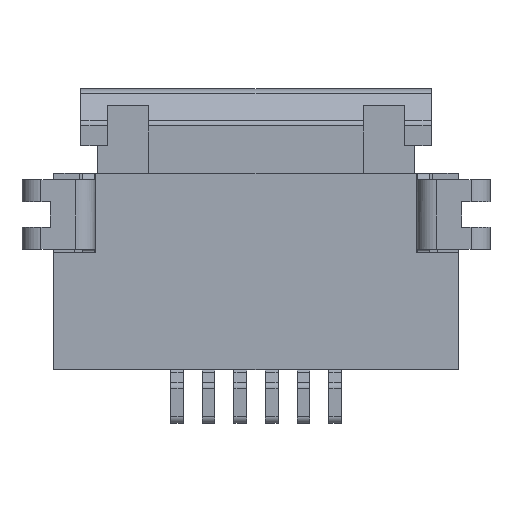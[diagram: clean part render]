
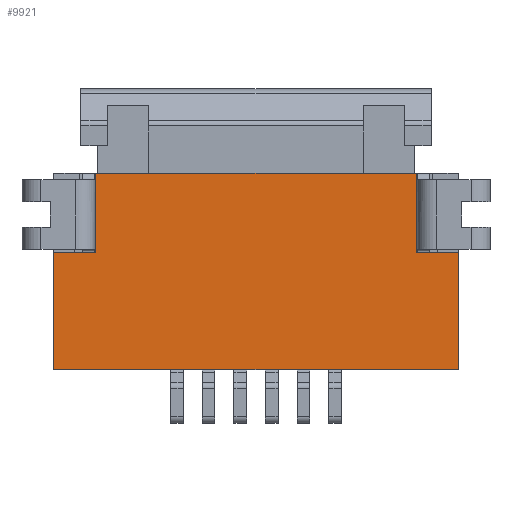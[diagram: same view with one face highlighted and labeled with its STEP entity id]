
A CAD part, top view. The second image highlights one B-rep face of the part: STEP entity #9921.
In plain terms, the highlighted planar face has unit normal (0, 0, 1).
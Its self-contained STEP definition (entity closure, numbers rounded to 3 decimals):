
#5=DIRECTION('',(0.,-1.,0.));
#6=VECTOR('',#5,1.85);
#7=CARTESIAN_POINT('',(-3.2,-1.25,1.55));
#8=LINE('',#7,#6);
#37=DIRECTION('',(-1.,0.,0.));
#38=VECTOR('',#37,0.67);
#39=CARTESIAN_POINT('',(-2.53,-1.25,1.55));
#40=LINE('',#39,#38);
#612=DIRECTION('',(1.,0.,0.));
#613=VECTOR('',#612,6.4);
#614=CARTESIAN_POINT('',(-3.2,-3.1,1.55));
#615=LINE('',#614,#613);
#760=DIRECTION('',(0.,-1.,0.));
#761=VECTOR('',#760,1.25);
#762=CARTESIAN_POINT('',(-2.53,0.,1.55));
#763=LINE('',#762,#761);
#764=DIRECTION('',(1.,0.,0.));
#765=VECTOR('',#764,5.06);
#766=CARTESIAN_POINT('',(-2.53,0.,1.55));
#767=LINE('',#766,#765);
#768=DIRECTION('',(0.,-1.,0.));
#769=VECTOR('',#768,1.25);
#770=CARTESIAN_POINT('',(2.53,0.,1.55));
#771=LINE('',#770,#769);
#2522=DIRECTION('',(0.,-1.,0.));
#2523=VECTOR('',#2522,1.85);
#2524=CARTESIAN_POINT('',(3.2,-1.25,1.55));
#2525=LINE('',#2524,#2523);
#2530=DIRECTION('',(-1.,0.,0.));
#2531=VECTOR('',#2530,0.67);
#2532=CARTESIAN_POINT('',(3.2,-1.25,1.55));
#2533=LINE('',#2532,#2531);
#6863=CARTESIAN_POINT('',(-3.2,-3.1,1.55));
#6865=VERTEX_POINT('',#6863);
#6869=CARTESIAN_POINT('',(3.2,-3.1,1.55));
#6871=VERTEX_POINT('',#6869);
#6875=CARTESIAN_POINT('',(3.2,-1.25,1.55));
#6877=VERTEX_POINT('',#6875);
#6901=CARTESIAN_POINT('',(2.53,0.,1.55));
#6902=CARTESIAN_POINT('',(2.53,-1.25,1.55));
#6903=VERTEX_POINT('',#6901);
#6904=VERTEX_POINT('',#6902);
#7063=CARTESIAN_POINT('',(-2.53,-1.25,1.55));
#7064=VERTEX_POINT('',#7063);
#7119=CARTESIAN_POINT('',(-3.2,-1.25,1.55));
#7121=VERTEX_POINT('',#7119);
#7135=CARTESIAN_POINT('',(-2.53,0.,1.55));
#7136=VERTEX_POINT('',#7135);
#9901=CARTESIAN_POINT('',(-3.2,0.,1.55));
#9902=DIRECTION('',(0.,0.,1.));
#9903=DIRECTION('',(0.,-1.,0.));
#9904=AXIS2_PLACEMENT_3D('',#9901,#9902,#9903);
#9905=PLANE('',#9904);
#9906=ORIENTED_EDGE('',*,*,#9015,.F.);
#9908=ORIENTED_EDGE('',*,*,#9907,.F.);
#9910=ORIENTED_EDGE('',*,*,#9909,.T.);
#9912=ORIENTED_EDGE('',*,*,#9911,.T.);
#9914=ORIENTED_EDGE('',*,*,#9913,.F.);
#9916=ORIENTED_EDGE('',*,*,#9915,.T.);
#9917=ORIENTED_EDGE('',*,*,#9794,.F.);
#9918=ORIENTED_EDGE('',*,*,#8987,.F.);
#9919=EDGE_LOOP('',(#9906,#9908,#9910,#9912,#9914,#9916,#9917,#9918));
#9920=FACE_OUTER_BOUND('',#9919,.F.);
#9921=ADVANCED_FACE('',(#9920),#9905,.T.);
#8987=EDGE_CURVE('',#7121,#6865,#8,.T.);
#9015=EDGE_CURVE('',#7064,#7121,#40,.T.);
#9794=EDGE_CURVE('',#6865,#6871,#615,.T.);
#9907=EDGE_CURVE('',#7136,#7064,#763,.T.);
#9909=EDGE_CURVE('',#7136,#6903,#767,.T.);
#9911=EDGE_CURVE('',#6903,#6904,#771,.T.);
#9913=EDGE_CURVE('',#6877,#6904,#2533,.T.);
#9915=EDGE_CURVE('',#6877,#6871,#2525,.T.);
